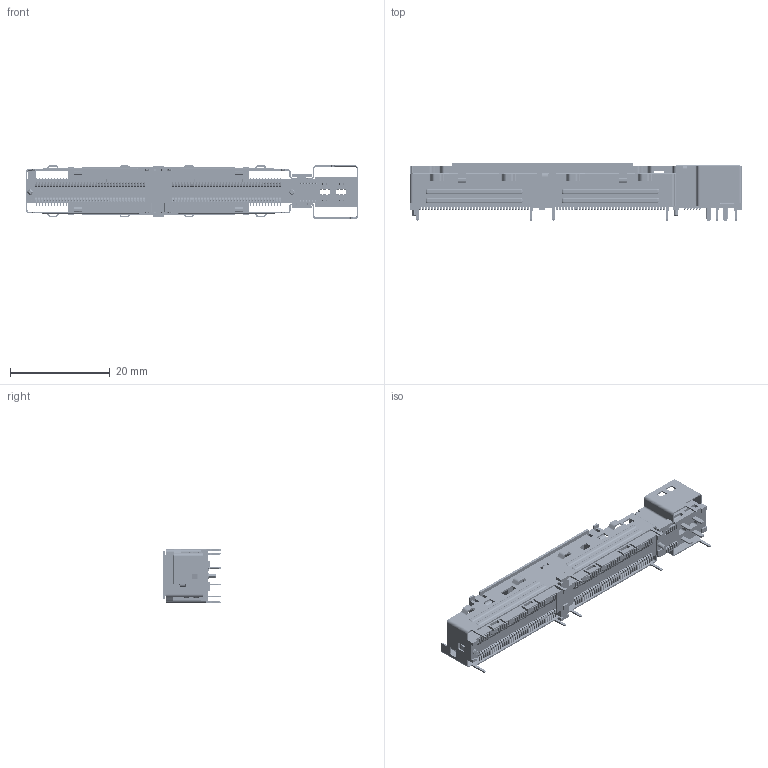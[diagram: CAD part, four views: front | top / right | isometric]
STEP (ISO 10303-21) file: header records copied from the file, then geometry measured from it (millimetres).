
FILE_DESCRIPTION((''),'2;1');
FILE_NAME('MTK_16X_POWER_ASM_101_SW0003','2025-06-05T09:47:35',('12824382'),(''),'CREO PARAMETRIC BY PTC INC, 2019471','CREO PARAMETRIC BY PTC INC, 2019471','');
FILE_SCHEMA(('CONFIG_CONTROL_DESIGN'));
Products named in the file (1): MTK_16X_POWER_ASM_101_SW0003
Bounding box: 66.6 x 11.6 x 10.8 mm (x, y, z)
Volume: 2402.9 mm3; surface area: 8247.2 mm2
Topology: 1 solids, 1 shells, 11758 faces, 33911 edges, 22329 vertices
Faces by surface type: plane 7921, cylinder 3625, sphere 84, bspline 64, torus 50, cone 14
Entity records: 387563 total; most frequent: CARTESIAN_POINT 73682, ORIENTED_EDGE 67646, DIRECTION 63148, EDGE_CURVE 33823, VECTOR 26008, LINE 26008, VERTEX_POINT 22329, AXIS2_PLACEMENT_3D 18570
